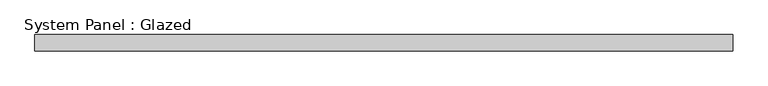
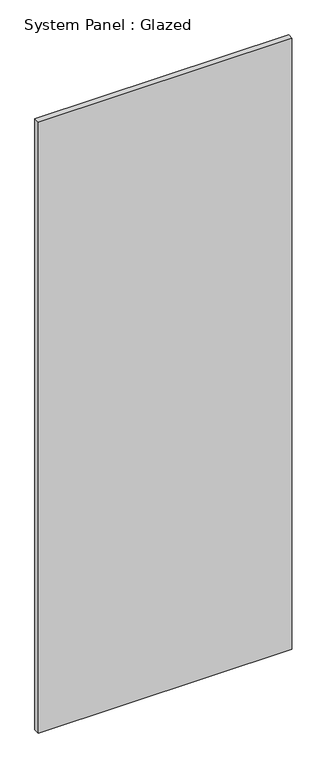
"""IFC4 building model written with IfcOpenShell, lengths in millimetres: plate geometry, System Panel : Glazed."""

from ifc_helpers import new_model, si_unit, origin, origin_with_axes, place, context, project, spatial, polyline, outline, extrude, source, transform, mapped, element, save


def system_panel_glazed_449a6446(model_context):
    return source(origin(), model_context, "Body", "SweptSolid", [
        extrude(outline(polyline([(549.9638169, 19.05), (-549.9638169, 19.05), (-549.9638169, 44.45), (549.9638169, 44.45), (549.9638169, 19.05)])), origin_with_axes(), (0.0, 0.0, 1.0), 2800.0),
    ])


if __name__ == "__main__":
    model = new_model("IFC4")
    model_context = context("Model", 3, world=origin())
    ifc_project = project(units=[si_unit("LENGTHUNIT", "METRE", prefix="MILLI")], contexts=[model_context])
    site = spatial("IfcSite", under=ifc_project)
    building = spatial("IfcBuilding", under=site)
    placement = place(None, origin())
    system_panel_glazed_shape = system_panel_glazed_449a6446(model_context)
    element("IfcPlate", 1, ObjectType="System Panel : Glazed", at=placement, inside=building, context=model_context, shape_type="MappedRepresentation", body=[
        mapped(system_panel_glazed_shape, transform((0.0, 0.0, 0.0), x_axis=(1.0, 0.0, 0.0), y_axis=(0.0, 1.0, 0.0), z_axis=(0.0, 0.0, 1.0))),
    ])
    save(model, "model.ifc")
